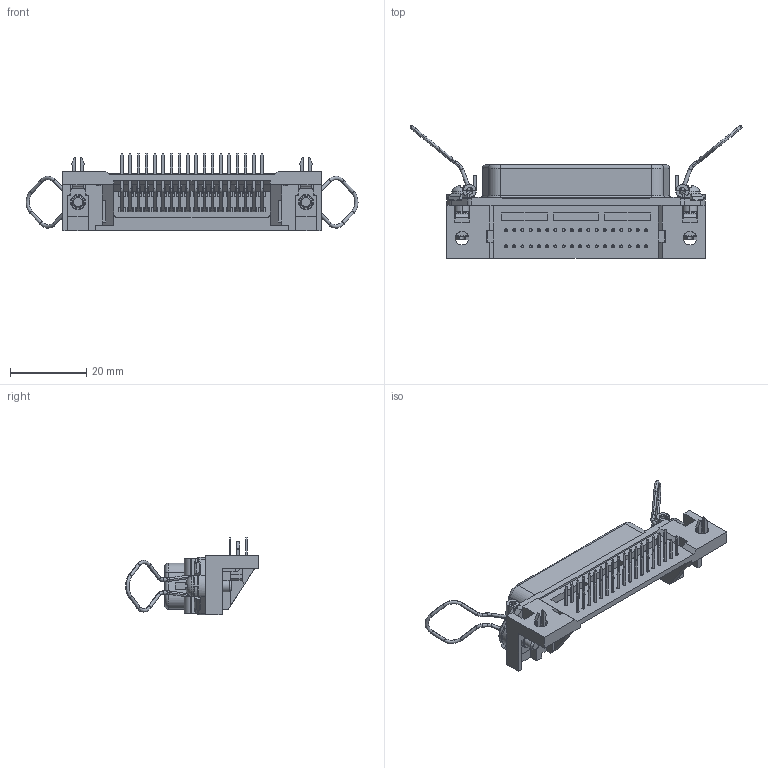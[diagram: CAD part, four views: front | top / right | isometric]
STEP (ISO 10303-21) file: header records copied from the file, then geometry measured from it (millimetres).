
FILE_DESCRIPTION (( 'STEP AP203' ), '1' );
FILE_NAME ('57LE-40360-7700(D29)-FA.STEP', '2021-05-17T02:49:22', ( '' ), ( '' ), 'SwSTEP 2.0', 'SolidWorks 2018', '' );
FILE_SCHEMA (( 'CONFIG_CONTROL_DESIGN' ));
Products named in the file (1): 57LE-40360-7700(D29)-FA
Bounding box: 87.02 x 34.81 x 20.43 mm (x, y, z)
Volume: 10323.4 mm3; surface area: 13375.1 mm2
Topology: 1 solids, 5 shells, 1866 faces, 5176 edges, 3308 vertices
Faces by surface type: plane 1326, cylinder 358, cone 80, torus 70, bspline 32
Entity records: 59829 total; most frequent: CARTESIAN_POINT 11437, ORIENTED_EDGE 10344, DIRECTION 9796, EDGE_CURVE 5172, VECTOR 3946, LINE 3946, VERTEX_POINT 3308, AXIS2_PLACEMENT_3D 2925
